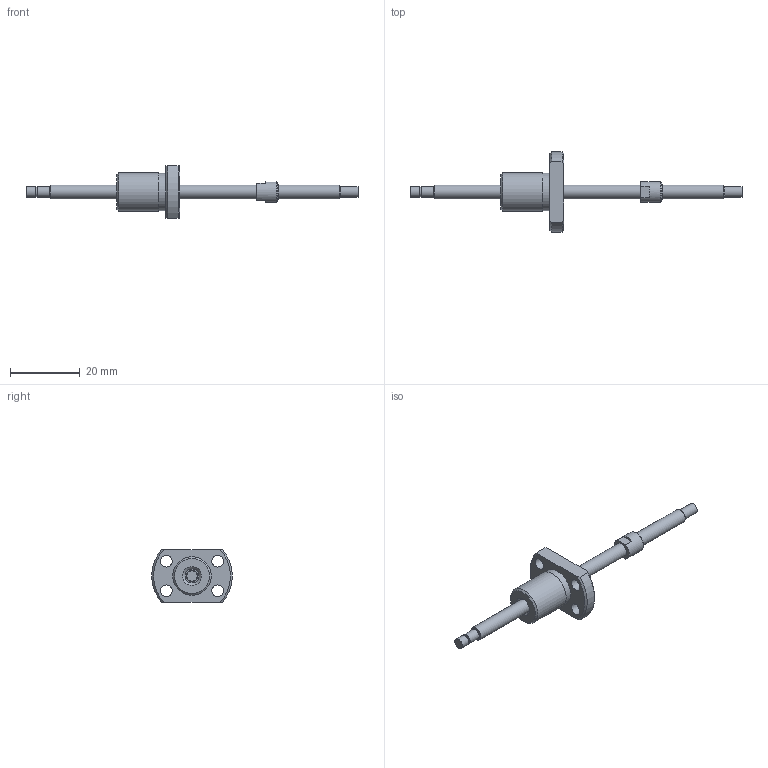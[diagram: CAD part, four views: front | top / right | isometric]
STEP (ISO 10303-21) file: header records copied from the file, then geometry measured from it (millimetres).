
FILE_DESCRIPTION(/* description */ ('STEP AP214'),/* implementation_level */ '2;1');
FILE_NAME(/* name */ 'NSGF0401Z-056R095C3-0-T-S-T-B-(19-S)',/* time_stamp */ '2026-08-24T20:01:09+02:00',/* author */ ('License CC BY-ND 4.0'),/* organization */ ('CADENAS'),/* preprocessor_version */ 'ST-DEVELOPER v20',/* originating_system */ 'PARTsolutions',/* authorisation */ ' ');
FILE_SCHEMA (('AUTOMOTIVE_DESIGN {1 0 10303 214 3 1 1}'));
Length unit declared in the file: millimetre
Products named in the file (3): NSGF0401Z-056R095C3-0-T-S-T-B-(19-S); NSG0401Z-56R9518_(T-S_T-B_2)_2; NSGF0401Z-23R23C3-0_(__2.5_1_S)-1
Assembly tree (2 placements, depth 2):
  NSGF0401Z-056R095C3-0-T-S-T-B-(19-S)
    NSG0401Z-56R9518_(T-S_T-B_2)_2
    NSGF0401Z-23R23C3-0_(__2.5_1_S)-1
Bounding box: 95 x 22.93 x 15 mm (x, y, z)
Volume: 3244.2 mm3; surface area: 2898.1 mm2
Topology: 2 solids, 2 shells, 45 faces, 95 edges, 62 vertices
Faces by surface type: plane 18, cylinder 16, cone 9, torus 2
Full cylindrical faces by diameter (mm): 2.7 x1, 3 x3, 3.4 x4, 4 x3, 6 x1, 10.75 x1, 11 x1
Entity records: 1185 total; most frequent: DIRECTION 204, CARTESIAN_POINT 200, ORIENTED_EDGE 140, AXIS2_PLACEMENT_3D 94, EDGE_LOOP 84, FACE_BOUND 84, EDGE_CURVE 70, VERTEX_POINT 58
